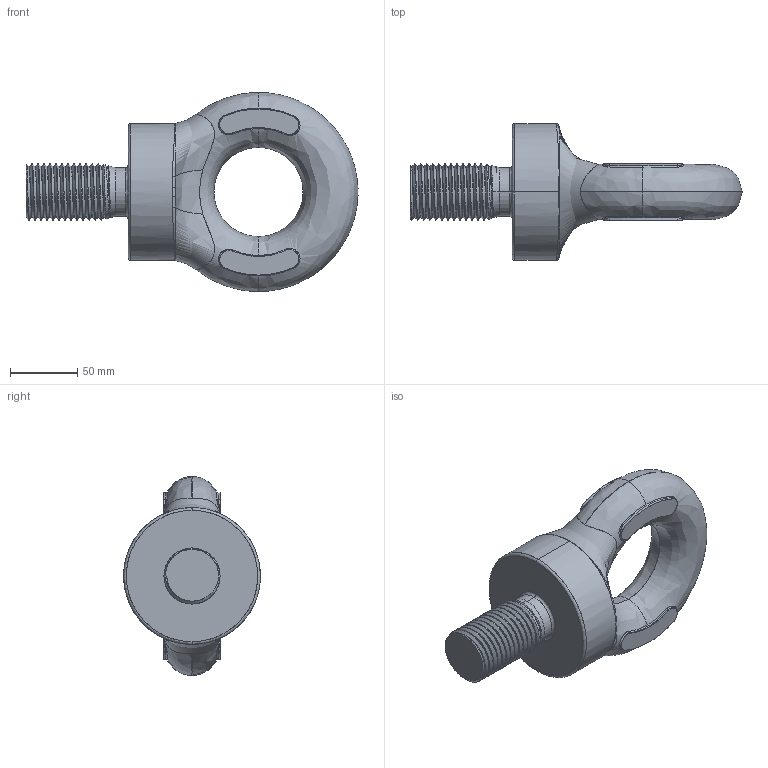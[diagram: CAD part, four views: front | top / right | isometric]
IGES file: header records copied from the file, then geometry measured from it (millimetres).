
Start section: SolidWorks IGES file using analytic representation for surfaces
Global section: file name: C:\Users\Brenton\Documents\Townley\Eye Bolts\New folder\EBMC42.IGS; native system: SolidWorks 2012; preprocessor: SolidWorks 2012; author: Brenton; date: 140224.135023; units: millimetre
Bounding box: 247.66 x 102 x 148.5 mm (x, y, z)
Surface area: 75826 mm2 (no closed solid volume)
Topology: 0 solids, 0 shells, 238 faces, 4055 edges, 4047 vertices
Faces by surface type: bspline 171, revolution 67
